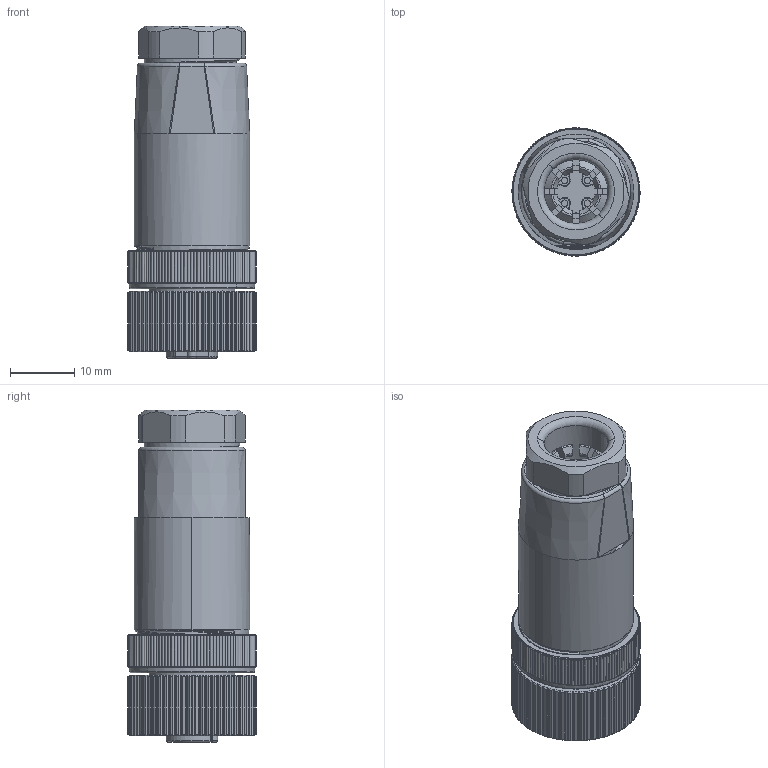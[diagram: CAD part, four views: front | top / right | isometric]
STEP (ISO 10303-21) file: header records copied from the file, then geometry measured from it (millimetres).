
FILE_DESCRIPTION((''),'2;1');
FILE_NAME('XC-M12-WK-PG9','2025-06-21T09:38:35',('lyj'),(''),'CREO PARAMETRIC BY PTC INC, 2019010','CREO PARAMETRIC BY PTC INC, 2019010','');
FILE_SCHEMA(('CONFIG_CONTROL_DESIGN'));
Products named in the file (1): XC-M12-WK-PG9
Bounding box: 20 x 20 x 51.82 mm (x, y, z)
Volume: 8635.7 mm3; surface area: 10935.2 mm2
Topology: 1 solids, 9 shells, 1539 faces, 4097 edges, 2623 vertices
Faces by surface type: cylinder 606, cone 429, plane 391, bspline 54, extrusion 29, torus 26, sphere 4
Entity records: 74079 total; most frequent: CARTESIAN_POINT 37511, ORIENTED_EDGE 8186, DIRECTION 6980, EDGE_CURVE 4093, AXIS2_PLACEMENT_3D 2804, VERTEX_POINT 2623, EDGE_LOOP 1626, FACE_OUTER_BOUND 1539
